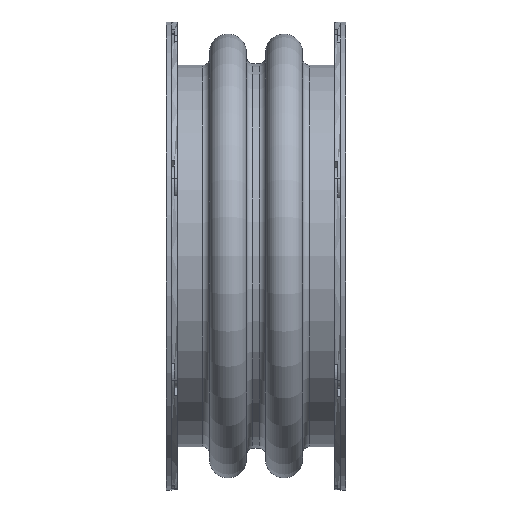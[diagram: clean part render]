
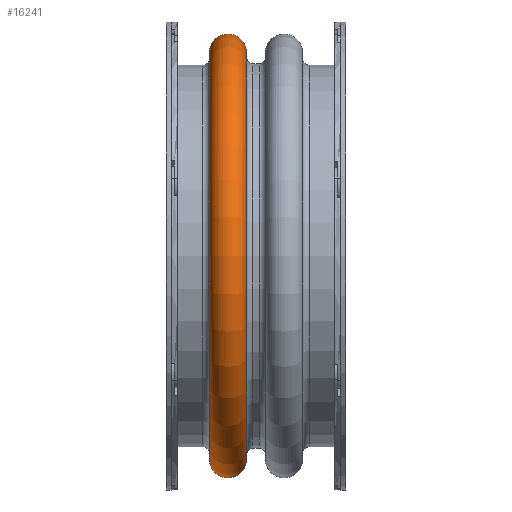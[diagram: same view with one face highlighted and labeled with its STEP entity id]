
A CAD part, top view. The second image highlights one B-rep face of the part: STEP entity #16241.
In plain terms, the highlighted toroidal (fillet/blend) face has major radius 403.225 mm and minor radius 36.513 mm.
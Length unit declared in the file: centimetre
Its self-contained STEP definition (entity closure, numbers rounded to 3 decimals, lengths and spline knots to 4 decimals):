
#279=FACE_BOUND('',#2802,.T.);
#1191=TOROIDAL_SURFACE('',#17895,40.3225,3.6513);
#1675=FACE_OUTER_BOUND('',#2801,.T.);
#2801=EDGE_LOOP('',(#12495));
#2802=EDGE_LOOP('',(#12496));
#5731=CIRCLE('',#17894,40.4435);
#5732=CIRCLE('',#17896,40.4435);
#7219=VERTEX_POINT('',#27095);
#7220=VERTEX_POINT('',#27098);
#9127=EDGE_CURVE('',#7219,#7219,#5731,.T.);
#9128=EDGE_CURVE('',#7220,#7220,#5732,.T.);
#12495=ORIENTED_EDGE('',*,*,#9128,.F.);
#12496=ORIENTED_EDGE('',*,*,#9127,.T.);
#16241=ADVANCED_FACE('',(#1675,#279),#1191,.T.);
#17894=AXIS2_PLACEMENT_3D('',#27096,#21811,#21812);
#17895=AXIS2_PLACEMENT_3D('',#27097,#21813,#21814);
#17896=AXIS2_PLACEMENT_3D('',#27099,#21815,#21816);
#21811=DIRECTION('center_axis',(1.,0.,0.));
#21812=DIRECTION('ref_axis',(0.,0.,-1.));
#21813=DIRECTION('center_axis',(1.,0.,0.));
#21814=DIRECTION('ref_axis',(0.,0.,-1.));
#21815=DIRECTION('center_axis',(1.,0.,0.));
#21816=DIRECTION('ref_axis',(0.,0.,-1.));
#27095=CARTESIAN_POINT('',(-9.2055,40.4435,0.));
#27096=CARTESIAN_POINT('Origin',(-9.2055,0.,
0.));
#27097=CARTESIAN_POINT('Origin',(-5.5563,0.,0.));
#27098=CARTESIAN_POINT('',(-1.907,40.4435,0.));
#27099=CARTESIAN_POINT('Origin',(-1.907,0.,
0.));
